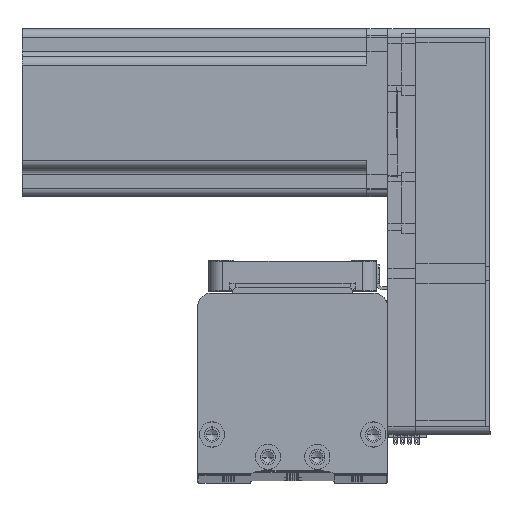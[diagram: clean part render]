
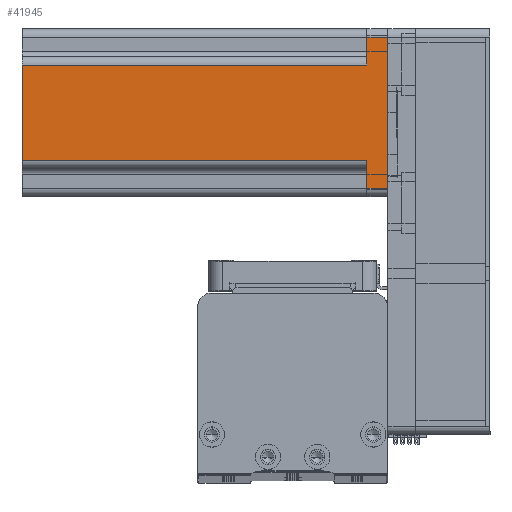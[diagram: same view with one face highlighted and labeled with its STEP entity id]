
A CAD part, top view. The second image highlights one B-rep face of the part: STEP entity #41945.
In plain terms, the highlighted planar face has unit normal (0, 0, 1) as drawn and (0, -1, 0) by its records, which use the part's own axes.
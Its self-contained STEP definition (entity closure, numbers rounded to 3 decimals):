
#361 = EDGE_CURVE ( 'NONE', #20890, #48921, #14829, .T. ) ;
#454 = VERTEX_POINT ( 'NONE', #47835 ) ;
#854 = CARTESIAN_POINT ( 'NONE',  ( 30., -30., 130.7 ) ) ;
#1726 = CARTESIAN_POINT ( 'NONE',  ( -17., -30., 130.7 ) ) ;
#6517 = CARTESIAN_POINT ( 'NONE',  ( -27., -30., 0. ) ) ;
#7283 = CARTESIAN_POINT ( 'NONE',  ( 27., -30., 130.7 ) ) ;
#7572 = CARTESIAN_POINT ( 'NONE',  ( 17., -30., 130.7 ) ) ;
#7826 = CARTESIAN_POINT ( 'NONE',  ( 20., -30., 7.5 ) ) ;
#8819 = ORIENTED_EDGE ( 'NONE', *, *, #34927, .T. ) ;
#9565 = VERTEX_POINT ( 'NONE', #31116 ) ;
#10360 = LINE ( 'NONE', #7826, #21427 ) ;
#10923 = EDGE_CURVE ( 'NONE', #53325, #9565, #49945, .T. ) ;
#11683 = LINE ( 'NONE', #7572, #33822 ) ;
#11780 = CARTESIAN_POINT ( 'NONE',  ( -17., -30., 7.5 ) ) ;
#13419 = CARTESIAN_POINT ( 'NONE',  ( -20., -30., 7.5 ) ) ;
#14423 = VERTEX_POINT ( 'NONE', #6517 ) ;
#14829 = LINE ( 'NONE', #854, #45472 ) ;
#15850 = VECTOR ( 'NONE', #29055, 1000. ) ;
#16720 = EDGE_LOOP ( 'NONE', ( #53495, #25283, #31117, #20499, #53596, #51618, #8819, #18439 ) ) ;
#18045 = VECTOR ( 'NONE', #52810, 1000. ) ;
#18439 = ORIENTED_EDGE ( 'NONE', *, *, #24562, .T. ) ;
#18444 = EDGE_CURVE ( 'NONE', #34865, #14423, #25598, .T. ) ;
#19111 = DIRECTION ( 'NONE',  ( 0., 1., 0. ) ) ;
#20443 = AXIS2_PLACEMENT_3D ( 'NONE', #44093, #19111, #48290 ) ;
#20499 = ORIENTED_EDGE ( 'NONE', *, *, #18444, .T. ) ;
#20890 = VERTEX_POINT ( 'NONE', #1726 ) ;
#21427 = VECTOR ( 'NONE', #40911, 1000. ) ;
#21607 = DIRECTION ( 'NONE',  ( 1., 0., 0. ) ) ;
#21990 = VECTOR ( 'NONE', #21607, 1000. ) ;
#22167 = CARTESIAN_POINT ( 'NONE',  ( -17., -30., 130.7 ) ) ;
#24562 = EDGE_CURVE ( 'NONE', #454, #48921, #11683, .T. ) ;
#24910 = CARTESIAN_POINT ( 'NONE',  ( -27., -30., 130.7 ) ) ;
#25283 = ORIENTED_EDGE ( 'NONE', *, *, #38851, .T. ) ;
#25315 = EDGE_CURVE ( 'NONE', #14423, #53325, #29059, .T. ) ;
#25598 = LINE ( 'NONE', #24910, #15850 ) ;
#25673 = EDGE_CURVE ( 'NONE', #34865, #28739, #53941, .T. ) ;
#25897 = VECTOR ( 'NONE', #51323, 1000. ) ;
#26199 = CARTESIAN_POINT ( 'NONE',  ( 27., -30., 0. ) ) ;
#26416 = VECTOR ( 'NONE', #53004, 1000. ) ;
#27295 = PLANE ( 'NONE',  #20443 ) ;
#28739 = VERTEX_POINT ( 'NONE', #11780 ) ;
#29055 = DIRECTION ( 'NONE',  ( 0., 0., -1. ) ) ;
#29059 = LINE ( 'NONE', #35983, #18045 ) ;
#31116 = CARTESIAN_POINT ( 'NONE',  ( 27., -30., 7.5 ) ) ;
#31117 = ORIENTED_EDGE ( 'NONE', *, *, #25673, .F. ) ;
#32484 = DIRECTION ( 'NONE',  ( 0., 0., 1. ) ) ;
#33822 = VECTOR ( 'NONE', #32484, 1000. ) ;
#34353 = LINE ( 'NONE', #22167, #25897 ) ;
#34865 = VERTEX_POINT ( 'NONE', #53179 ) ;
#34927 = EDGE_CURVE ( 'NONE', #9565, #454, #10360, .T. ) ;
#35983 = CARTESIAN_POINT ( 'NONE',  ( 30., -30., 0. ) ) ;
#37708 = FACE_OUTER_BOUND ( 'NONE', #16720, .T. ) ;
#38851 = EDGE_CURVE ( 'NONE', #20890, #28739, #34353, .T. ) ;
#40911 = DIRECTION ( 'NONE',  ( -1., 0., 0. ) ) ;
#41945 = ADVANCED_FACE ( 'NONE', ( #37708 ), #27295, .F. ) ;
#42617 = CARTESIAN_POINT ( 'NONE',  ( 17., -30., 130.7 ) ) ;
#44093 = CARTESIAN_POINT ( 'NONE',  ( 30., -30., 130.7 ) ) ;
#45472 = VECTOR ( 'NONE', #46561, 1000. ) ;
#46561 = DIRECTION ( 'NONE',  ( 1., 0., 0. ) ) ;
#47835 = CARTESIAN_POINT ( 'NONE',  ( 17., -30., 7.5 ) ) ;
#48290 = DIRECTION ( 'NONE',  ( -1., 0., 0. ) ) ;
#48921 = VERTEX_POINT ( 'NONE', #42617 ) ;
#49945 = LINE ( 'NONE', #7283, #26416 ) ;
#51323 = DIRECTION ( 'NONE',  ( 0., 0., -1. ) ) ;
#51618 = ORIENTED_EDGE ( 'NONE', *, *, #10923, .T. ) ;
#52810 = DIRECTION ( 'NONE',  ( 1., 0., 0. ) ) ;
#53004 = DIRECTION ( 'NONE',  ( 0., 0., 1. ) ) ;
#53179 = CARTESIAN_POINT ( 'NONE',  ( -27., -30., 7.5 ) ) ;
#53325 = VERTEX_POINT ( 'NONE', #26199 ) ;
#53495 = ORIENTED_EDGE ( 'NONE', *, *, #361, .F. ) ;
#53596 = ORIENTED_EDGE ( 'NONE', *, *, #25315, .T. ) ;
#53941 = LINE ( 'NONE', #13419, #21990 ) ;
